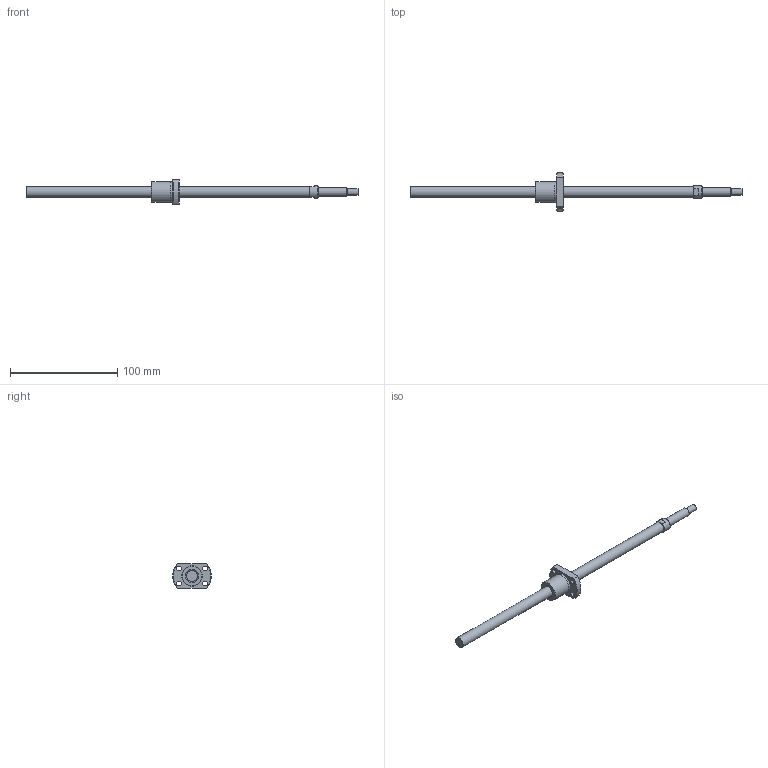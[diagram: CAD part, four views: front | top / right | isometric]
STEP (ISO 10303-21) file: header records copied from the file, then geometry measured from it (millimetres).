
FILE_DESCRIPTION(/* description */ ('STEP AP214'),/* implementation_level */ '2;1');
FILE_NAME(/* name */ 'NSGF1004Z-260R310C3-0-T-S-T-A-(117-S)',/* time_stamp */ '2026-08-24T20:15:46+02:00',/* author */ ('License CC BY-ND 4.0'),/* organization */ ('CADENAS'),/* preprocessor_version */ 'ST-DEVELOPER v20',/* originating_system */ 'PARTsolutions',/* authorisation */ ' ');
FILE_SCHEMA (('AUTOMOTIVE_DESIGN {1 0 10303 214 3 1 1}'));
Length unit declared in the file: millimetre
Products named in the file (3): NSGF1004Z-260R310C3-0-T-S-T-A-(117-S); NSG1004Z-260R31026_(T-S_T-A_2)_2; NSGF1004Z-1
Assembly tree (2 placements, depth 2):
  NSGF1004Z-260R310C3-0-T-S-T-A-(117-S)
    NSG1004Z-260R31026_(T-S_T-A_2)_2
    NSGF1004Z-1
Bounding box: 310 x 36 x 23 mm (x, y, z)
Volume: 30439.5 mm3; surface area: 13944.7 mm2
Topology: 2 solids, 2 shells, 40 faces, 88 edges, 57 vertices
Faces by surface type: plane 17, cylinder 14, cone 8, torus 1
Full cylindrical faces by diameter (mm): 4.5 x4, 6 x1, 8 x1, 10 x2, 11.5 x1, 16 x1, 18.7 x1, 19 x1
Entity records: 1095 total; most frequent: CARTESIAN_POINT 187, DIRECTION 186, ORIENTED_EDGE 134, AXIS2_PLACEMENT_3D 84, EDGE_LOOP 72, FACE_BOUND 72, EDGE_CURVE 67, VERTEX_POINT 53
